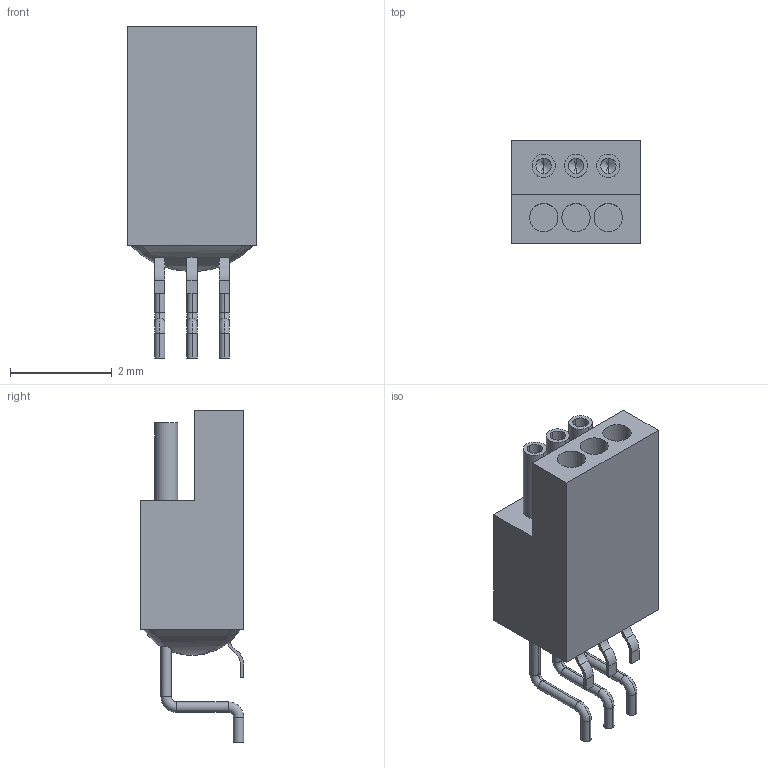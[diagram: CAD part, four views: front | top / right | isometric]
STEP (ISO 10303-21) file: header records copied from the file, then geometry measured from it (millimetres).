
FILE_DESCRIPTION (( 'STEP AP214' ), '1' );
FILE_NAME ('A79608-001 REV D.STEP', '2015-11-06T14:32:21', ( '' ), ( '' ), 'SwSTEP 2.0', 'SolidWorks 2015', '' );
FILE_SCHEMA (( 'AUTOMOTIVE_DESIGN' ));
Length unit declared in the file: inch
Products named in the file (1): A79608-001
Bounding box: 2.54 x 2.03 x 6.53 mm (x, y, z)
Volume: 15.8 mm3; surface area: 93.9 mm2
Topology: 1 solids, 1 shells, 108 faces, 260 edges, 156 vertices
Faces by surface type: cylinder 52, plane 32, torus 12, cone 6, bspline 6
Entity records: 3379 total; most frequent: CARTESIAN_POINT 884, DIRECTION 528, ORIENTED_EDGE 500, EDGE_CURVE 250, AXIS2_PLACEMENT_3D 211, VERTEX_POINT 156, EDGE_LOOP 120, CIRCLE 108
